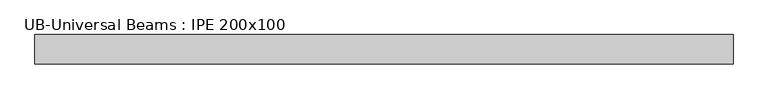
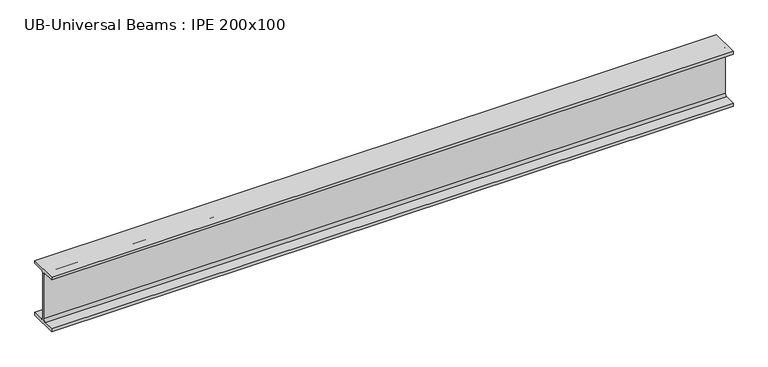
"""IFC4 building model written with IfcOpenShell, lengths in millimetres: beam geometry, UB-Universal Beams : IPE 200x100."""

from ifc_helpers import new_model, si_unit, point, frame, frame_2d, origin, place, context, project, spatial, polyline, circle_curve, trimmed, segment, composite_curve, outline, extrude, source, transform, mapped, element, save


def ub_universal_beams_ipe_200x100_31cfee39(model_context):
    return source(origin(), model_context, "Body", "SweptSolid", [
        extrude(outline(composite_curve([segment(polyline([(-50.0, -89.8), (-11.9, -89.8)]), True, "CONTINUOUS"), segment(trimmed(circle_curve(frame_2d((-11.9, -80.9)), 8.9), [point((-11.9, -89.8))], [point((-3.0, -80.9))], True, "CARTESIAN"), True, "CONTINUOUS"), segment(polyline([(-3.0, -80.9), (-3.0, 80.9)]), True, "CONTINUOUS"), segment(trimmed(circle_curve(frame_2d((-11.9, 80.9)), 8.9), [point((-3.0, 80.9))], [point((-11.9, 89.8))], True, "CARTESIAN"), True, "CONTINUOUS"), segment(polyline([(-11.9, 89.8), (-50.0, 89.8), (-50.0, 100.0), (50.0, 100.0), (50.0, 89.8), (11.9, 89.8)]), True, "CONTINUOUS"), segment(trimmed(circle_curve(frame_2d((11.9, 80.9)), 8.9), [point((11.9, 89.8))], [point((3.0, 80.9))], True, "CARTESIAN"), True, "CONTINUOUS"), segment(polyline([(3.0, 80.9), (3.0, -80.9)]), True, "CONTINUOUS"), segment(trimmed(circle_curve(frame_2d((11.9, -80.9)), 8.9), [point((3.0, -80.9))], [point((11.9, -89.8))], True, "CARTESIAN"), True, "CONTINUOUS"), segment(polyline([(11.9, -89.8), (50.0, -89.8), (50.0, -100.0), (-50.0, -100.0), (-50.0, -89.8)]), True, "CONTINUOUS")], self_intersect=False)), frame((-1149.2, 0.0, 0.0), z_axis=(1.0, 0.0, 0.0), x_axis=(0.0, 1.0, 0.0)), (0.0, 0.0, 1.0), 2361.1),
    ])


if __name__ == "__main__":
    model = new_model("IFC4")
    model_context = context("Model", 3, world=origin())
    ifc_project = project(units=[si_unit("LENGTHUNIT", "METRE", prefix="MILLI")], contexts=[model_context])
    site = spatial("IfcSite", under=ifc_project)
    building = spatial("IfcBuilding", under=site)
    placement = place(None, origin())
    ub_universal_beams_ipe_200x100_shape = ub_universal_beams_ipe_200x100_31cfee39(model_context)
    element("IfcBeam", 1, ObjectType="UB-Universal Beams : IPE 200x100", at=placement, inside=building, context=model_context, shape_type="MappedRepresentation", body=[
        mapped(ub_universal_beams_ipe_200x100_shape, transform((0.0, 0.0, 0.0), x_axis=(1.0, 0.0, 0.0), y_axis=(0.0, 1.0, 0.0), z_axis=(0.0, 0.0, 1.0))),
    ])
    save(model, "model.ifc")
